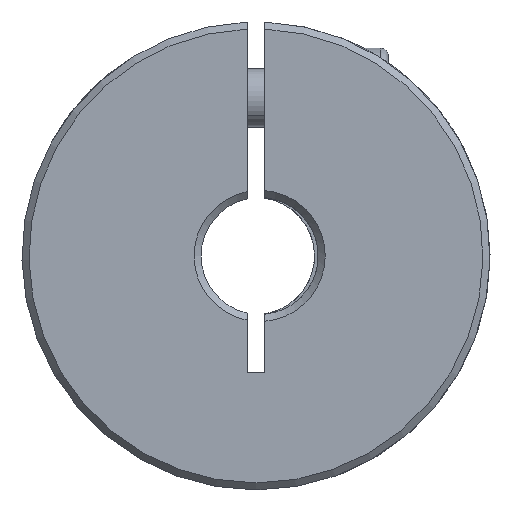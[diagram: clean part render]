
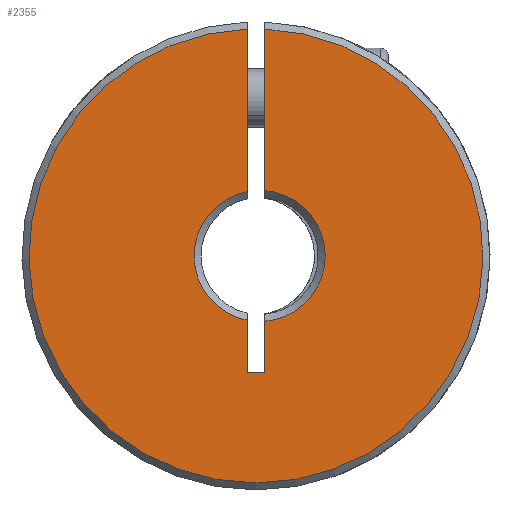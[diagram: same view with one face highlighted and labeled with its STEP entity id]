
A CAD part, front view. The second image highlights one B-rep face of the part: STEP entity #2355.
In plain terms, the highlighted planar face has unit normal (0, -1, 0).
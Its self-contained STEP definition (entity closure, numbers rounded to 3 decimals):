
#114 = VECTOR ( 'NONE', #5076, 1000. ) ;
#202 = VERTEX_POINT ( 'NONE', #2079 ) ;
#215 = CARTESIAN_POINT ( 'NONE',  ( 0., -30., 0. ) ) ;
#224 = ORIENTED_EDGE ( 'NONE', *, *, #2508, .T. ) ;
#309 = DIRECTION ( 'NONE',  ( 0., 0., 1. ) ) ;
#514 = VECTOR ( 'NONE', #788, 1000. ) ;
#539 = EDGE_CURVE ( 'NONE', #1544, #2924, #3032, .T. ) ;
#549 = DIRECTION ( 'NONE',  ( 0., 0., -1. ) ) ;
#682 = EDGE_LOOP ( 'NONE', ( #4185, #2997, #5803, #4590, #224, #5365, #5038, #3984 ) ) ;
#775 = DIRECTION ( 'NONE',  ( 0., 0., -1. ) ) ;
#788 = DIRECTION ( 'NONE',  ( -1., 0., 0. ) ) ;
#800 = CARTESIAN_POINT ( 'NONE',  ( 0.75, -30., 5.583 ) ) ;
#933 = LINE ( 'NONE', #5620, #114 ) ;
#1016 = DIRECTION ( 'NONE',  ( 0., 1., 0. ) ) ;
#1211 = AXIS2_PLACEMENT_3D ( 'NONE', #4415, #4354, #3805 ) ;
#1435 = AXIS2_PLACEMENT_3D ( 'NONE', #1934, #1016, #2854 ) ;
#1544 = VERTEX_POINT ( 'NONE', #4887 ) ;
#1659 = LINE ( 'NONE', #4940, #2565 ) ;
#1717 = VERTEX_POINT ( 'NONE', #4680 ) ;
#1718 = CARTESIAN_POINT ( 'NONE',  ( 0.75, -30., -10. ) ) ;
#1815 = CARTESIAN_POINT ( 'NONE',  ( -0.75, -30., 5.498 ) ) ;
#1885 = EDGE_CURVE ( 'NONE', #2091, #3690, #3233, .T. ) ;
#1927 = LINE ( 'NONE', #5185, #2626 ) ;
#1934 = CARTESIAN_POINT ( 'NONE',  ( 0.314, -30., 0. ) ) ;
#1966 = CARTESIAN_POINT ( 'NONE',  ( 0.75, -30., 19.385 ) ) ;
#2047 = VERTEX_POINT ( 'NONE', #800 ) ;
#2079 = CARTESIAN_POINT ( 'NONE',  ( 0.75, -30., -5.583 ) ) ;
#2091 = VERTEX_POINT ( 'NONE', #3601 ) ;
#2140 = FACE_OUTER_BOUND ( 'NONE', #682, .T. ) ;
#2198 = DIRECTION ( 'NONE',  ( 0., 1., 0. ) ) ;
#2345 = EDGE_CURVE ( 'NONE', #2924, #2047, #1659, .T. ) ;
#2355 = ADVANCED_FACE ( 'NONE', ( #2140 ), #3575, .F. ) ;
#2467 = VECTOR ( 'NONE', #2803, 1000. ) ;
#2508 = EDGE_CURVE ( 'NONE', #1717, #2091, #4745, .T. ) ;
#2565 = VECTOR ( 'NONE', #775, 1000. ) ;
#2624 = VERTEX_POINT ( 'NONE', #1718 ) ;
#2626 = VECTOR ( 'NONE', #549, 1000. ) ;
#2662 = AXIS2_PLACEMENT_3D ( 'NONE', #215, #2198, #309 ) ;
#2724 = EDGE_CURVE ( 'NONE', #3690, #1544, #933, .T. ) ;
#2803 = DIRECTION ( 'NONE',  ( 0., 0., 1. ) ) ;
#2854 = DIRECTION ( 'NONE',  ( 0., 0., 1. ) ) ;
#2924 = VERTEX_POINT ( 'NONE', #1966 ) ;
#2997 = ORIENTED_EDGE ( 'NONE', *, *, #3861, .T. ) ;
#3032 = CIRCLE ( 'NONE', #1211, 19.4 ) ;
#3047 = LINE ( 'NONE', #3109, #514 ) ;
#3109 = CARTESIAN_POINT ( 'NONE',  ( -0.75, -30., -10. ) ) ;
#3158 = EDGE_CURVE ( 'NONE', #2624, #1717, #3047, .T. ) ;
#3200 = CARTESIAN_POINT ( 'NONE',  ( 0.314, -30., 0. ) ) ;
#3233 = CIRCLE ( 'NONE', #3551, 5.6 ) ;
#3551 = AXIS2_PLACEMENT_3D ( 'NONE', #3200, #3622, #5078 ) ;
#3575 = PLANE ( 'NONE',  #2662 ) ;
#3601 = CARTESIAN_POINT ( 'NONE',  ( -0.75, -30., -5.498 ) ) ;
#3622 = DIRECTION ( 'NONE',  ( 0., 1., 0. ) ) ;
#3690 = VERTEX_POINT ( 'NONE', #1815 ) ;
#3805 = DIRECTION ( 'NONE',  ( 0., 0., 1. ) ) ;
#3861 = EDGE_CURVE ( 'NONE', #2047, #202, #4846, .T. ) ;
#3984 = ORIENTED_EDGE ( 'NONE', *, *, #539, .T. ) ;
#4185 = ORIENTED_EDGE ( 'NONE', *, *, #2345, .T. ) ;
#4354 = DIRECTION ( 'NONE',  ( 0., -1., 0. ) ) ;
#4415 = CARTESIAN_POINT ( 'NONE',  ( 0., -30., 0. ) ) ;
#4590 = ORIENTED_EDGE ( 'NONE', *, *, #3158, .T. ) ;
#4680 = CARTESIAN_POINT ( 'NONE',  ( -0.75, -30., -10. ) ) ;
#4710 = CARTESIAN_POINT ( 'NONE',  ( -0.75, -30., -10. ) ) ;
#4745 = LINE ( 'NONE', #4710, #2467 ) ;
#4846 = CIRCLE ( 'NONE', #1435, 5.6 ) ;
#4887 = CARTESIAN_POINT ( 'NONE',  ( -0.75, -30., 19.385 ) ) ;
#4921 = EDGE_CURVE ( 'NONE', #202, #2624, #1927, .T. ) ;
#4940 = CARTESIAN_POINT ( 'NONE',  ( 0.75, -30., -10. ) ) ;
#5038 = ORIENTED_EDGE ( 'NONE', *, *, #2724, .T. ) ;
#5076 = DIRECTION ( 'NONE',  ( 0., 0., 1. ) ) ;
#5078 = DIRECTION ( 'NONE',  ( 0., 0., 1. ) ) ;
#5185 = CARTESIAN_POINT ( 'NONE',  ( 0.75, -30., -10. ) ) ;
#5365 = ORIENTED_EDGE ( 'NONE', *, *, #1885, .T. ) ;
#5620 = CARTESIAN_POINT ( 'NONE',  ( -0.75, -30., -10. ) ) ;
#5803 = ORIENTED_EDGE ( 'NONE', *, *, #4921, .T. ) ;
